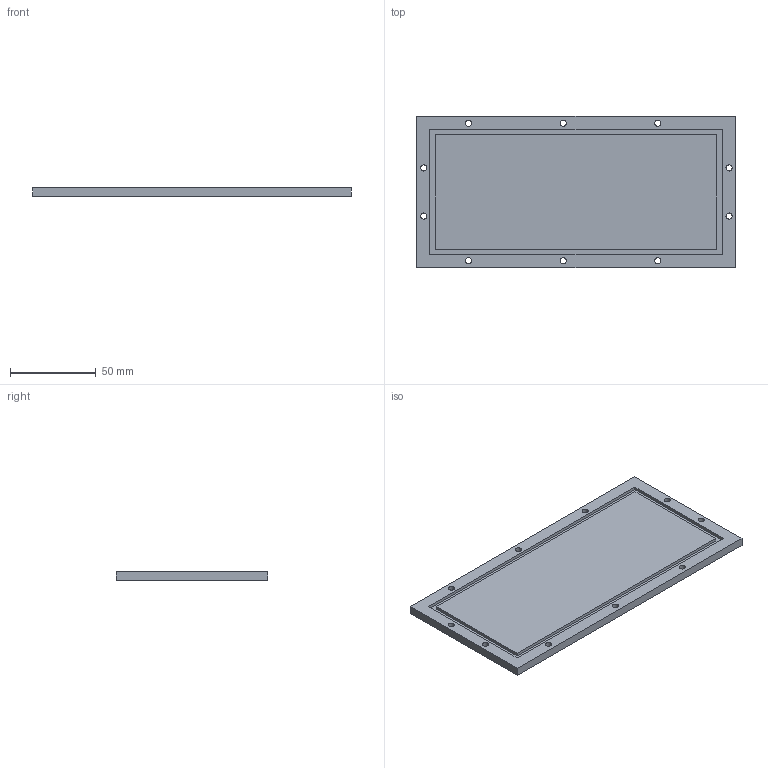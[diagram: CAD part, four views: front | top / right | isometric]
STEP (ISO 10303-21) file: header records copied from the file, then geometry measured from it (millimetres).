
FILE_DESCRIPTION(('FreeCAD Model'),'2;1');
FILE_NAME('Open CASCADE Shape Model','2026-09-11T23:31:14',('FreeCAD'),( 'FreeCAD'),'Open CASCADE STEP processor 7.8','FreeCAD','Unknown');
FILE_SCHEMA(('AUTOMOTIVE_DESIGN { 1 0 10303 214 1 1 1 1 }'));
Length unit declared in the file: millimetre
Products named in the file (1): Open CASCADE STEP translator 7.8 5
Bounding box: 185 x 88 x 5 mm (x, y, z)
Volume: 77476.2 mm3; surface area: 38938.1 mm2
Topology: 1 solids, 1 shells, 2421 faces, 5814 edges, 3876 vertices
Faces by surface type: plane 2411, cylinder 10
Full cylindrical faces by diameter (mm): 3.6 x10
Entity records: 68858 total; most frequent: CARTESIAN_POINT 12112, ORIENTED_EDGE 11628, DIRECTION 10678, EDGE_CURVE 5814, LINE 5794, VECTOR 5794, VERTEX_POINT 3876, FACE_BOUND 2922
